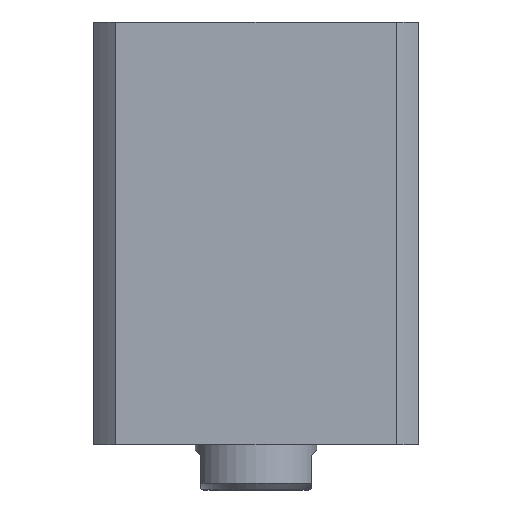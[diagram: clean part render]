
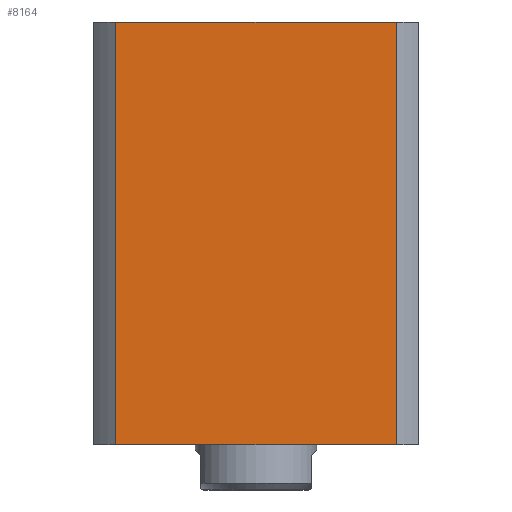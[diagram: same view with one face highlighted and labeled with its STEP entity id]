
A CAD part, front view. The second image highlights one B-rep face of the part: STEP entity #8164.
In plain terms, the highlighted planar face has unit normal (0, -1, 0) as drawn and (0, 1, 0) by its records, which use the part's own axes.
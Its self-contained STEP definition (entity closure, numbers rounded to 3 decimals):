
#569 = CARTESIAN_POINT ( 'NONE',  ( 40.435, 47., 0. ) ) ;
#2097 = DIRECTION ( 'NONE',  ( 0., -1., 0. ) ) ;
#2685 = CARTESIAN_POINT ( 'NONE',  ( 40.435, 47., 122. ) ) ;
#2739 = CARTESIAN_POINT ( 'NONE',  ( -40.435, 47., -2878. ) ) ;
#3128 = EDGE_CURVE ( 'NONE', #7310, #16827, #12269, .T. ) ;
#3861 = CARTESIAN_POINT ( 'NONE',  ( -40.435, 47., 122. ) ) ;
#4465 = ORIENTED_EDGE ( 'NONE', *, *, #8018, .F. ) ;
#4731 = VECTOR ( 'NONE', #9919, 1000. ) ;
#4951 = VECTOR ( 'NONE', #7487, 1000. ) ;
#4961 = EDGE_LOOP ( 'NONE', ( #13243, #6836, #14564, #4465 ) ) ;
#6836 = ORIENTED_EDGE ( 'NONE', *, *, #7396, .T. ) ;
#7310 = VERTEX_POINT ( 'NONE', #569 ) ;
#7396 = EDGE_CURVE ( 'NONE', #7310, #12513, #9022, .T. ) ;
#7487 = DIRECTION ( 'NONE',  ( -1., 0., 0. ) ) ;
#8018 = EDGE_CURVE ( 'NONE', #16827, #12627, #8381, .T. ) ;
#8164 = ADVANCED_FACE ( 'NONE', ( #15266 ), #10326, .F. ) ;
#8381 = LINE ( 'NONE', #12631, #4731 ) ;
#9022 = LINE ( 'NONE', #17093, #4951 ) ;
#9855 = DIRECTION ( 'NONE',  ( 0., 0., 1. ) ) ;
#9919 = DIRECTION ( 'NONE',  ( -1., 0., 0. ) ) ;
#10326 = PLANE ( 'NONE',  #10331 ) ;
#10331 = AXIS2_PLACEMENT_3D ( 'NONE', #16835, #2097, #11712 ) ;
#10965 = VECTOR ( 'NONE', #9855, 1000. ) ;
#10968 = DIRECTION ( 'NONE',  ( 0., 0., -1. ) ) ;
#11336 = LINE ( 'NONE', #2739, #17790 ) ;
#11712 = DIRECTION ( 'NONE',  ( 0., 0., -1. ) ) ;
#12269 = LINE ( 'NONE', #16716, #10965 ) ;
#12513 = VERTEX_POINT ( 'NONE', #13584 ) ;
#12627 = VERTEX_POINT ( 'NONE', #3861 ) ;
#12631 = CARTESIAN_POINT ( 'NONE',  ( -47., 47., 122. ) ) ;
#13243 = ORIENTED_EDGE ( 'NONE', *, *, #3128, .F. ) ;
#13495 = EDGE_CURVE ( 'NONE', #12627, #12513, #11336, .T. ) ;
#13584 = CARTESIAN_POINT ( 'NONE',  ( -40.435, 47., 0. ) ) ;
#14564 = ORIENTED_EDGE ( 'NONE', *, *, #13495, .F. ) ;
#15266 = FACE_OUTER_BOUND ( 'NONE', #4961, .T. ) ;
#16716 = CARTESIAN_POINT ( 'NONE',  ( 40.435, 47., -2878. ) ) ;
#16827 = VERTEX_POINT ( 'NONE', #2685 ) ;
#16835 = CARTESIAN_POINT ( 'NONE',  ( -47., 47., 122. ) ) ;
#17093 = CARTESIAN_POINT ( 'NONE',  ( -47., 47., 0. ) ) ;
#17790 = VECTOR ( 'NONE', #10968, 1000. ) ;
